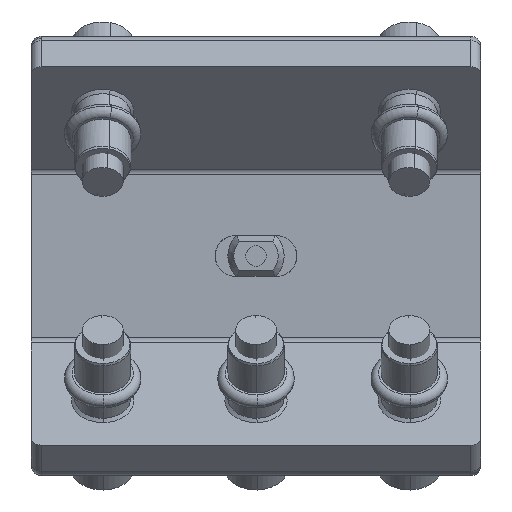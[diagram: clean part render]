
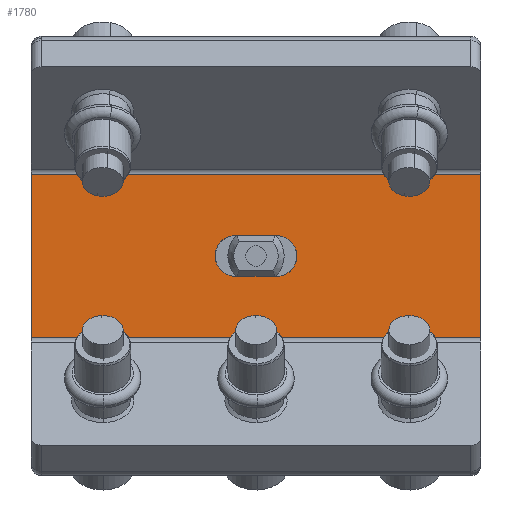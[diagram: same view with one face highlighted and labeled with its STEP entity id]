
A CAD part, front view. The second image highlights one B-rep face of the part: STEP entity #1780.
In plain terms, the highlighted planar face has unit normal (0, -1, 0).
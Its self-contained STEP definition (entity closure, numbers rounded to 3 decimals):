
#935=CARTESIAN_POINT('Vertex',(44.,40.,15.947)) ;
#938=CARTESIAN_POINT('Line Origine',(44.,40.,0.)) ;
#942=CARTESIAN_POINT('Vertex',(44.,40.,-15.947)) ;
#1114=CARTESIAN_POINT('Line Origine',(0.,40.,-15.947)) ;
#1118=CARTESIAN_POINT('Vertex',(-44.,40.,-15.947)) ;
#1192=CARTESIAN_POINT('Line Origine',(-44.,40.,0.)) ;
#1196=CARTESIAN_POINT('Vertex',(-44.,40.,15.947)) ;
#1681=CARTESIAN_POINT('Line Origine',(0.,40.,15.947)) ;
#1693=CARTESIAN_POINT('Axis2P3D Location',(0.,40.,-15.947)) ;
#1704=CARTESIAN_POINT('Line Origine',(0.,40.,4.)) ;
#1708=CARTESIAN_POINT('Vertex',(4.,40.,4.)) ;
#1710=CARTESIAN_POINT('Vertex',(-4.,40.,4.)) ;
#1714=CARTESIAN_POINT('Control Point',(4.,40.,-4.)) ;
#1715=CARTESIAN_POINT('Control Point',(4.392,40.,-4.)) ;
#1716=CARTESIAN_POINT('Control Point',(4.784,40.,-3.952)) ;
#1717=CARTESIAN_POINT('Control Point',(5.168,40.,-3.856)) ;
#1718=CARTESIAN_POINT('Control Point',(5.905,40.,-3.572)) ;
#1719=CARTESIAN_POINT('Control Point',(6.551,40.,-3.118)) ;
#1720=CARTESIAN_POINT('Control Point',(6.845,40.,-2.853)) ;
#1721=CARTESIAN_POINT('Control Point',(7.361,40.,-2.256)) ;
#1722=CARTESIAN_POINT('Control Point',(7.718,40.,-1.551)) ;
#1723=CARTESIAN_POINT('Control Point',(7.853,40.,-1.179)) ;
#1724=CARTESIAN_POINT('Control Point',(8.027,40.,-0.409)) ;
#1725=CARTESIAN_POINT('Control Point',(8.011,40.,0.381)) ;
#1726=CARTESIAN_POINT('Control Point',(7.954,40.,0.773)) ;
#1727=CARTESIAN_POINT('Control Point',(7.746,40.,1.534)) ;
#1728=CARTESIAN_POINT('Control Point',(7.36,40.,2.223)) ;
#1729=CARTESIAN_POINT('Control Point',(7.125,40.,2.542)) ;
#1730=CARTESIAN_POINT('Control Point',(6.583,40.,3.117)) ;
#1731=CARTESIAN_POINT('Control Point',(5.919,40.,3.543)) ;
#1732=CARTESIAN_POINT('Control Point',(5.562,40.,3.714)) ;
#1733=CARTESIAN_POINT('Control Point',(5.033,40.,3.892)) ;
#1734=CARTESIAN_POINT('Control Point',(4.485,40.,3.975)) ;
#1735=CARTESIAN_POINT('Control Point',(4.323,40.,3.992)) ;
#1736=CARTESIAN_POINT('Control Point',(4.162,40.,4.)) ;
#1737=CARTESIAN_POINT('Control Point',(4.,40.,4.)) ;
#1738=CARTESIAN_POINT('Vertex',(4.,40.,-4.)) ;
#1741=CARTESIAN_POINT('Line Origine',(0.,40.,-4.)) ;
#1745=CARTESIAN_POINT('Vertex',(-4.,40.,-4.)) ;
#1749=CARTESIAN_POINT('Control Point',(-4.,40.,4.)) ;
#1750=CARTESIAN_POINT('Control Point',(-4.392,40.,4.)) ;
#1751=CARTESIAN_POINT('Control Point',(-4.784,40.,3.952)) ;
#1752=CARTESIAN_POINT('Control Point',(-5.168,40.,3.856)) ;
#1753=CARTESIAN_POINT('Control Point',(-5.905,40.,3.572)) ;
#1754=CARTESIAN_POINT('Control Point',(-6.551,40.,3.118)) ;
#1755=CARTESIAN_POINT('Control Point',(-6.845,40.,2.853)) ;
#1756=CARTESIAN_POINT('Control Point',(-7.361,40.,2.256)) ;
#1757=CARTESIAN_POINT('Control Point',(-7.718,40.,1.551)) ;
#1758=CARTESIAN_POINT('Control Point',(-7.853,40.,1.179)) ;
#1759=CARTESIAN_POINT('Control Point',(-8.027,40.,0.409)) ;
#1760=CARTESIAN_POINT('Control Point',(-8.011,40.,-0.381)) ;
#1761=CARTESIAN_POINT('Control Point',(-7.954,40.,-0.773)) ;
#1762=CARTESIAN_POINT('Control Point',(-7.746,40.,-1.534)) ;
#1763=CARTESIAN_POINT('Control Point',(-7.36,40.,-2.223)) ;
#1764=CARTESIAN_POINT('Control Point',(-7.125,40.,-2.542)) ;
#1765=CARTESIAN_POINT('Control Point',(-6.583,40.,-3.117)) ;
#1766=CARTESIAN_POINT('Control Point',(-5.919,40.,-3.543)) ;
#1767=CARTESIAN_POINT('Control Point',(-5.562,40.,-3.714)) ;
#1768=CARTESIAN_POINT('Control Point',(-5.033,40.,-3.892)) ;
#1769=CARTESIAN_POINT('Control Point',(-4.485,40.,-3.975)) ;
#1770=CARTESIAN_POINT('Control Point',(-4.323,40.,-3.992)) ;
#1771=CARTESIAN_POINT('Control Point',(-4.162,40.,-4.)) ;
#1772=CARTESIAN_POINT('Control Point',(-4.,40.,-4.)) ;
#939=DIRECTION('Vector Direction',(0.,0.,1.)) ;
#1115=DIRECTION('Vector Direction',(1.,0.,0.)) ;
#1193=DIRECTION('Vector Direction',(0.,0.,1.)) ;
#1682=DIRECTION('Vector Direction',(1.,0.,0.)) ;
#1694=DIRECTION('Axis2P3D Direction',(0.,1.,0.)) ;
#1695=DIRECTION('Axis2P3D XDirection',(0.,0.,1.)) ;
#1705=DIRECTION('Vector Direction',(1.,0.,0.)) ;
#1742=DIRECTION('Vector Direction',(-1.,0.,0.)) ;
#1696=AXIS2_PLACEMENT_3D('Plane Axis2P3D',#1693,#1694,#1695) ;
#1699=ORIENTED_EDGE('',*,*,#1685,.F.) ;
#1700=ORIENTED_EDGE('',*,*,#1198,.T.) ;
#1701=ORIENTED_EDGE('',*,*,#1120,.T.) ;
#1702=ORIENTED_EDGE('',*,*,#944,.F.) ;
#1775=ORIENTED_EDGE('',*,*,#1712,.F.) ;
#1776=ORIENTED_EDGE('',*,*,#1740,.F.) ;
#1777=ORIENTED_EDGE('',*,*,#1747,.F.) ;
#1778=ORIENTED_EDGE('',*,*,#1773,.F.) ;
#1779=FACE_BOUND('',#1774,.T.) ;
#940=VECTOR('Line Direction',#939,1.) ;
#1116=VECTOR('Line Direction',#1115,1.) ;
#1194=VECTOR('Line Direction',#1193,1.) ;
#1683=VECTOR('Line Direction',#1682,1.) ;
#1706=VECTOR('Line Direction',#1705,1.) ;
#1743=VECTOR('Line Direction',#1742,1.) ;
#1780=ADVANCED_FACE('Seitenanbindung mittig SW80',(#1703,#1779),#1697,.F.) ;
#1713=B_SPLINE_CURVE_WITH_KNOTS('',5,(#1714,#1715,#1716,#1717,#1718,#1719,#1720,#1721,#1722,#1723,#1724,#1725,#1726,#1727,#1728,#1729,#1730,#1731,#1732,#1733,#1734,#1735,#1736,#1737),.UNSPECIFIED.,.F.,.U.,(6,3,3,3,3,3,3,6),(0.,2.778,5.556,8.334,11.111,13.889,16.667,17.812),.UNSPECIFIED.) ;
#1748=B_SPLINE_CURVE_WITH_KNOTS('',5,(#1749,#1750,#1751,#1752,#1753,#1754,#1755,#1756,#1757,#1758,#1759,#1760,#1761,#1762,#1763,#1764,#1765,#1766,#1767,#1768,#1769,#1770,#1771,#1772),.UNSPECIFIED.,.F.,.U.,(6,3,3,3,3,3,3,6),(0.,2.778,5.556,8.334,11.111,13.889,16.667,17.812),.UNSPECIFIED.) ;
#944=EDGE_CURVE('',#936,#943,#941,.F.) ;
#1120=EDGE_CURVE('',#1119,#943,#1117,.T.) ;
#1198=EDGE_CURVE('',#1197,#1119,#1195,.F.) ;
#1685=EDGE_CURVE('',#1197,#936,#1684,.T.) ;
#1712=EDGE_CURVE('',#1709,#1711,#1707,.F.) ;
#1740=EDGE_CURVE('',#1739,#1709,#1713,.T.) ;
#1747=EDGE_CURVE('',#1746,#1739,#1744,.F.) ;
#1773=EDGE_CURVE('',#1711,#1746,#1748,.T.) ;
#1698=EDGE_LOOP('',(#1699,#1700,#1701,#1702)) ;
#1774=EDGE_LOOP('',(#1775,#1776,#1777,#1778)) ;
#1703=FACE_OUTER_BOUND('',#1698,.T.) ;
#941=LINE('Line',#938,#940) ;
#1117=LINE('Line',#1114,#1116) ;
#1195=LINE('Line',#1192,#1194) ;
#1684=LINE('Line',#1681,#1683) ;
#1707=LINE('Line',#1704,#1706) ;
#1744=LINE('Line',#1741,#1743) ;
#1697=PLANE('',#1696) ;
#936=VERTEX_POINT('',#935) ;
#943=VERTEX_POINT('',#942) ;
#1119=VERTEX_POINT('',#1118) ;
#1197=VERTEX_POINT('',#1196) ;
#1709=VERTEX_POINT('',#1708) ;
#1711=VERTEX_POINT('',#1710) ;
#1739=VERTEX_POINT('',#1738) ;
#1746=VERTEX_POINT('',#1745) ;
